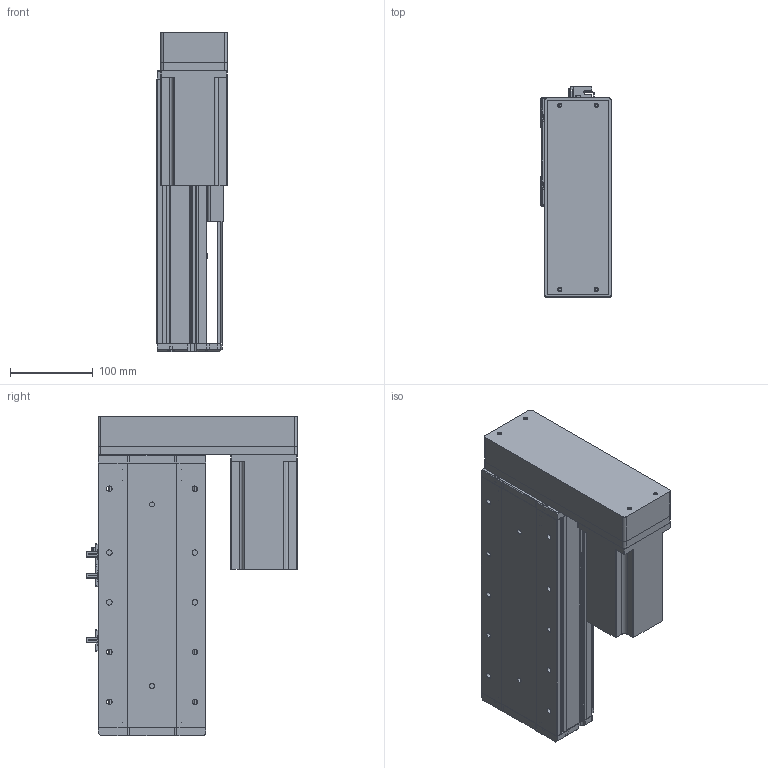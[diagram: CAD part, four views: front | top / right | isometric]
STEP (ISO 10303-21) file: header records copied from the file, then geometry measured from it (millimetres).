
FILE_DESCRIPTION (( 'STEP AP214' ), '1' );
FILE_NAME ('KSD130-P2010-S100-MR-CM.STEP', '2019-09-17T07:17:48', ( '微软用户' ), ( '微软中国' ), 'SwSTEP 2.0', 'SolidWorks 2014', '' );
FILE_SCHEMA (( 'AUTOMOTIVE_DESIGN' ));
Length unit declared in the file: millimetre
Products named in the file (11): U倰嫖萇EEㄜSX672; 覜茼え100遵圉猾敕; 130宽盖板半封闭丝杠-100行程; 130宽滚珠丝杆安装板半封闭-20丝杠; 130宽马达安装板半封闭; 130遵傷裔圉猾敕; 130宽底板半封闭丝杠-100行程; KSD130-P2010-S100-MR-CM; 130宽模组保护罩左右折; 台达ECMA－C20807AS伺服电机; 130宽模组马达安装板连板左右折丝杆
Assembly tree (12 placements, depth 2):
  KSD130-P2010-S100-MR-CM
    130宽底板半封闭丝杠-100行程
    130遵傷裔圉猾敕
    130宽马达安装板半封闭
    130宽滚珠丝杆安装板半封闭-20丝杠
    130宽盖板半封闭丝杠-100行程
    覜茼え100遵圉猾敕
    U倰嫖萇EEㄜSX672  x3
    130宽模组马达安装板连板左右折丝杆
    台达ECMA－C20807AS伺服电机
    130宽模组保护罩左右折
Bounding box: 85 x 253.7 x 385.5 mm (x, y, z)
Volume: 2382402.3 mm3; surface area: 583460 mm2
Topology: 13 solids, 13 shells, 1208 faces, 3385 edges, 2179 vertices
Faces by surface type: cylinder 555, plane 546, cone 107
Entity records: 38349 total; most frequent: CARTESIAN_POINT 7062, DIRECTION 5711, ORIENTED_EDGE 5522, EDGE_CURVE 2761, AXIS2_PLACEMENT_3D 2044, VERTEX_POINT 1803, LINE 1623, VECTOR 1623
